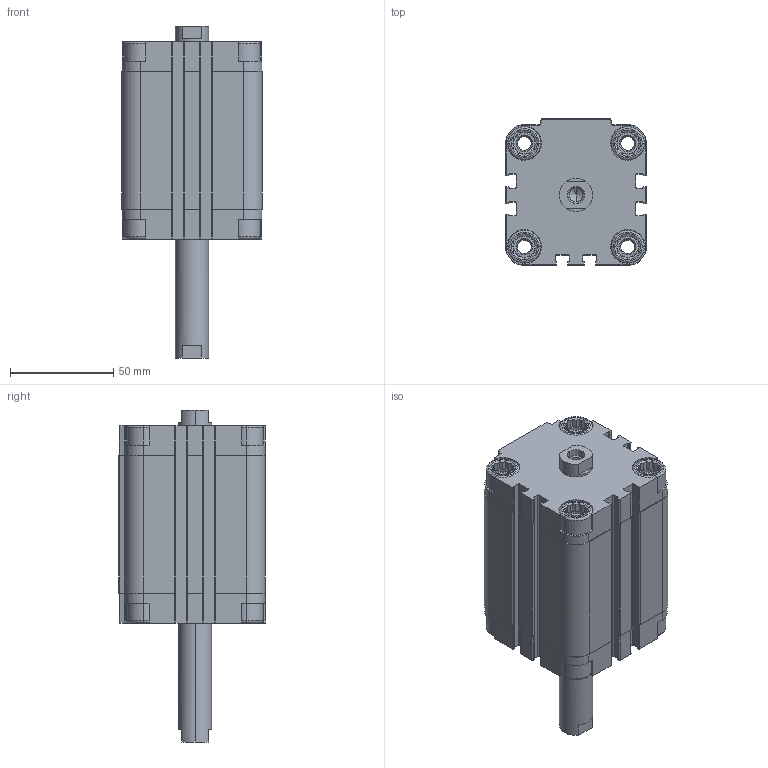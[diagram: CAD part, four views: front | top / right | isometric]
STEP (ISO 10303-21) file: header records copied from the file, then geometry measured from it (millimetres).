
FILE_DESCRIPTION (( 'STEP AP203' ), '1' );
FILE_NAME ('CDVU50-50F-P.STEP', '2020-07-24T18:36:16', ( '' ), ( '' ), 'SwSTEP 2.0', 'SolidWorks 2019', '' );
FILE_SCHEMA (( 'CONFIG_CONTROL_DESIGN' ));
Length unit declared in the file: millimetre
Products named in the file (1): CDVU50-50F-P
Bounding box: 68 x 71 x 160.5 mm (x, y, z)
Volume: 317922.6 mm3; surface area: 84180.9 mm2
Topology: 2 solids, 2 shells, 722 faces, 1928 edges, 1244 vertices
Faces by surface type: plane 422, cylinder 236, cone 48, torus 16
Entity records: 22639 total; most frequent: CARTESIAN_POINT 4463, ORIENTED_EDGE 3840, DIRECTION 3726, EDGE_CURVE 1920, AXIS2_PLACEMENT_3D 1275, VERTEX_POINT 1244, LINE 1176, VECTOR 1176
